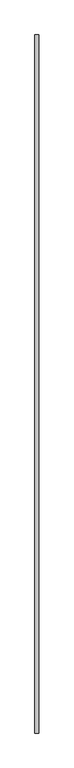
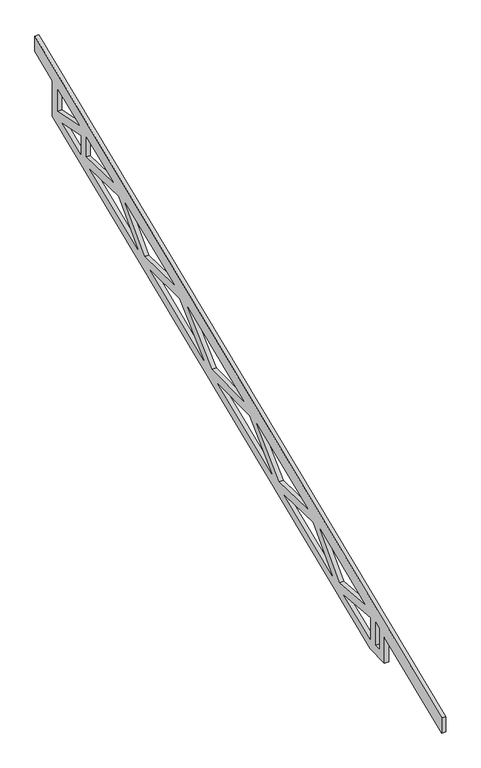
"""IFC4 building model written with IfcOpenShell, lengths in millimetres: beam geometry, Structural Framing Roof w/ Heel15 : Structural Framing Roof w/ Heel."""

import ifcopenshell
import ifcopenshell.guid

model = None  # the IFC model being written
_history = None  # IfcOwnerHistory: only IFC2X3 demands one
_inside = {}  # id of a spatial element -> (the spatial element, [elements in it])
_under = {}  # id of a project, library or spatial element -> (it, [spatial elements below it])
_declared = {}  # id of a project -> (the project, [libraries it declares])
_typed = {}  # id of a type object -> (the type object, [elements of that type])
_made_of = {}  # id of a material, layer set ... -> (it, [elements and type objects made of it])


def new_model(schema):
    """Start an empty IFC model of exactly this schema.

    Asked for "IFC4X3", IfcOpenShell would pick the latest addendum, in which some entities
    have other attributes; the version numbers below select the first issue.
    IFC2X3 requires an IfcOwnerHistory on every rooted entity: one is made here for all.
    """
    global model, _history
    if schema == "IFC4X3":
        model = ifcopenshell.file(schema_version=(4, 3, 0, 0))
    else:
        model = ifcopenshell.file(schema=schema)
    _inside.clear()
    _under.clear()
    _declared.clear()
    _typed.clear()
    _made_of.clear()
    _history = None
    if model.schema == "IFC2X3":
        org = make("IfcOrganization", Name="unknown")
        user = make(
            "IfcPersonAndOrganization",
            ThePerson=make("IfcPerson", FamilyName="unknown"),
            TheOrganization=org,
        )
        app = make(
            "IfcApplication",
            ApplicationDeveloper=org,
            Version="unknown",
            ApplicationFullName="unknown",
            ApplicationIdentifier="unknown",
        )
        _history = make(
            "IfcOwnerHistory",
            OwningUser=user,
            OwningApplication=app,
            ChangeAction="ADDED",
            CreationDate=0,
        )
    return model


def make(cls, **values):
    """One entity of the class cls with the attributes given. An attribute that is None is left unset."""
    return model.create_entity(
        cls, **{name: value for name, value in values.items() if value is not None}
    )


def rooted(cls, **values):
    """An entity with a GlobalId (a new one), such as an element, a storey or a relation."""
    return make(cls, GlobalId=ifcopenshell.guid.new(), OwnerHistory=_history, **values)


def si_unit(unit_type, name, prefix=None):
    """IfcSIUnit, for example si_unit("LENGTHUNIT", "METRE", prefix="MILLI")."""
    return make("IfcSIUnit", UnitType=unit_type, Prefix=prefix, Name=name)


def assignment(units):
    """IfcUnitAssignment: the units of a project."""
    return None if units is None else make("IfcUnitAssignment", Units=units)


def point(xyz):
    """IfcCartesianPoint."""
    return None if xyz is None else make("IfcCartesianPoint", Coordinates=xyz)


def direction(xyz):
    """IfcDirection."""
    return None if xyz is None else make("IfcDirection", DirectionRatios=xyz)


def frame(location, z_axis=None, x_axis=None):
    """IfcAxis2Placement3D, a coordinate frame: its origin and axes. An axis left out is left unset."""
    return make(
        "IfcAxis2Placement3D",
        Location=point(location),
        Axis=direction(z_axis),
        RefDirection=direction(x_axis),
    )


def origin():
    """The frame at (0, 0, 0) with its axes left unset."""
    return frame((0.0, 0.0, 0.0))


def place(relative_to, where):
    """IfcLocalPlacement: puts the frame where relative to a parent placement (None: the world)."""
    return make(
        "IfcLocalPlacement", PlacementRelTo=relative_to, RelativePlacement=where
    )


def context(
    kind, dimensions, precision=None, world=None, true_north=None, identifier=None
):
    """IfcGeometricRepresentationContext, for example the 3D "Model" context."""
    return make(
        "IfcGeometricRepresentationContext",
        ContextIdentifier=identifier,
        ContextType=kind,
        CoordinateSpaceDimension=dimensions,
        Precision=precision,
        WorldCoordinateSystem=world,
        TrueNorth=true_north,
    )


def project(units=None, contexts=None):
    """IfcProject with its units and contexts."""
    return rooted(
        "IfcProject",
        Name="project",
        RepresentationContexts=contexts,
        UnitsInContext=assignment(units),
    )


def spatial(cls, under=None, at=None, **own):
    """A site, building, storey or space (cls), placed at a placement, below another one or the project."""
    s = rooted(cls, ObjectPlacement=at, **own)
    if under is not None:
        _under.setdefault(under.id(), (under, []))[1].append(s)
    return s


def polyline(points):
    """IfcPolyline through the points."""
    return make("IfcPolyline", Points=[point(p) for p in points])


def outline(outer, holes=None, kind="AREA"):
    """IfcArbitraryClosedProfileDef: a profile drawn as a closed curve; with holes, ...WithVoids."""
    if holes is None:
        return make("IfcArbitraryClosedProfileDef", ProfileType=kind, OuterCurve=outer)
    return make(
        "IfcArbitraryProfileDefWithVoids",
        ProfileType=kind,
        OuterCurve=outer,
        InnerCurves=holes,
    )


def extrude(swept, where, along, depth):
    """IfcExtrudedAreaSolid: the profile swept, set in the frame where, extruded along a direction by depth."""
    return make(
        "IfcExtrudedAreaSolid",
        SweptArea=swept,
        Position=where,
        ExtrudedDirection=direction(along),
        Depth=depth,
    )


def shape(context_of_items, identifier, shape_type, items):
    """IfcShapeRepresentation: the items that make up one representation, for example the "Body"."""
    return make(
        "IfcShapeRepresentation",
        ContextOfItems=context_of_items,
        RepresentationIdentifier=identifier,
        RepresentationType=shape_type,
        Items=items,
    )


def source(mapping_origin, context_of_items, identifier, shape_type, items):
    """IfcRepresentationMap: a shape defined once, which mapped items show again and again."""
    return make(
        "IfcRepresentationMap",
        MappingOrigin=mapping_origin,
        MappedRepresentation=shape(context_of_items, identifier, shape_type, items),
    )


def transform(
    local_origin,
    x_axis=None,
    y_axis=None,
    z_axis=None,
    scale=None,
    scale2=None,
    scale3=None,
    uniform=True,
):
    """IfcCartesianTransformationOperator3D, or its non-uniform kind. x_axis, y_axis, z_axis: its Axis1, 2, 3."""
    if uniform:
        return make(
            "IfcCartesianTransformationOperator3D",
            Axis1=direction(x_axis),
            Axis2=direction(y_axis),
            LocalOrigin=point(local_origin),
            Scale=scale,
            Axis3=direction(z_axis),
        )
    return make(
        "IfcCartesianTransformationOperator3DnonUniform",
        Axis1=direction(x_axis),
        Axis2=direction(y_axis),
        LocalOrigin=point(local_origin),
        Scale=scale,
        Axis3=direction(z_axis),
        Scale2=scale2,
        Scale3=scale3,
    )


def mapped(mapping_source, mapping_target):
    """IfcMappedItem: shows the shape of a source again, moved by a transform."""
    return make(
        "IfcMappedItem", MappingSource=mapping_source, MappingTarget=mapping_target
    )


def made_of(thing, what):
    """Note that an element or type object is made of a material, layer set ...; save() writes the relation."""
    if what is not None:
        _made_of.setdefault(what.id(), (what, []))[1].append(thing)
    return thing


def element(
    cls,
    number,
    at=None,
    inside=None,
    cuts=None,
    type_object=None,
    material=None,
    context=None,
    identifier="Body",
    shape_type=None,
    held_by="IfcProductDefinitionShape",
    body=None,
    shapes=None,
    **own,
):
    """One element of the class cls, such as IfcWall. Its Tag is "e" and its number.

    at: its placement. inside: the storey or other place that contains it. cuts: it is an
    opening in that element (IfcRelVoidsElement). A single representation is given by context,
    identifier, shape_type and body (its items); several are given by shapes. held_by: the class
    of the entity that holds the representations. save() writes the other relations.
    """
    e = rooted(cls, Tag="e%d" % number, ObjectPlacement=at, **own)
    if body is not None:
        shapes = [shape(context, identifier, shape_type, body)]
    if shapes is not None:
        e.Representation = make(held_by, Representations=shapes)
    if inside is not None:
        _inside.setdefault(inside.id(), (inside, []))[1].append(e)
    if cuts is not None:
        rooted(
            "IfcRelVoidsElement", RelatingBuildingElement=cuts, RelatedOpeningElement=e
        )
    if type_object is not None:
        _typed.setdefault(type_object.id(), (type_object, []))[1].append(e)
    return made_of(e, material)


def aggregate(whole, parts):
    """IfcRelAggregates: a whole, such as a stair, and the parts it consists of."""
    return rooted("IfcRelAggregates", RelatingObject=whole, RelatedObjects=parts)


def save(model, path):
    """Write the relations noted so far, then the file.

    IfcRelAggregates (storeys below a building ...), IfcRelContainedInSpatialStructure (elements
    in a storey), IfcRelDefinesByType, IfcRelAssociatesMaterial and IfcRelDeclares: one each for
    every whole, place, type object, material and project.
    """
    for whole, parts in _under.values():
        aggregate(whole, parts)
    for where, things in _inside.values():
        rooted(
            "IfcRelContainedInSpatialStructure",
            RelatedElements=things,
            RelatingStructure=where,
        )
    for kind, things in _typed.values():
        rooted("IfcRelDefinesByType", RelatedObjects=things, RelatingType=kind)
    for what, things in _made_of.values():
        rooted("IfcRelAssociatesMaterial", RelatedObjects=things, RelatingMaterial=what)
    for by, libraries in _declared.values():
        rooted("IfcRelDeclares", RelatingContext=by, RelatedDefinitions=libraries)
    model.write(path)


def beam_7082162d(model_context):
    return source(origin(), model_context, "Body", "SweptSolid", [
        extrude(outline(polyline([(-4341.3150713, 5708.65), (-4576.2650713, 5708.65), (-4576.2650713, 5966.3541667), (-5512.8900713, 5576.09375), (-5512.8900713, 5727.4354167), (1151.4349287, 8504.2375), (1151.4349287, 8352.8958333), (865.6849287, 8233.8333333), (865.6849287, 7878.2333333), (-4341.3150713, 5708.65)]), holes=[polyline([(776.7849287, 7982.8105493), (776.7849287, 8196.7916667), (428.5029469, 8051.6741742), (776.7849287, 7982.8105493)]), polyline([(399.2041595, 7780.1746795), (703.0361414, 7906.7713386), (399.2041595, 7966.8461421), (399.2041595, 7780.1746795)]), polyline([(-4487.3650713, 6003.3958333), (-4487.3650713, 5797.55), (-4430.2150713, 5797.55), (-4430.2150713, 6027.2083333), (-4487.3650713, 6003.3958333)]), polyline([(-4341.3150713, 6019.6478887), (-4341.3150713, 5804.9583333), (-3911.4775967, 5984.0572811), (-4341.3150713, 6019.6478887)]), polyline([(-4252.0156228, 6101.4581035), (-3839.8684995, 6067.3322597), (-3521.3586349, 6405.8985152), (-4252.0156228, 6101.4581035)]), polyline([(-3721.805413, 6063.0873576), (-2936.0539604, 6390.4837962), (-3402.2530812, 6402.7617238), (-3721.805413, 6063.0873576)]), polyline([(-3320.6131644, 6489.5424612), (-2853.3624523, 6477.2368386), (-2486.998348, 6836.881968), (-3320.6131644, 6489.5424612)]), polyline([(-2358.3334599, 6838.6111327), (-2725.4356999, 6478.2414047), (-1843.9575196, 6845.5239799), (-2358.3334599, 6838.6111327)]), polyline([(-1751.4938827, 6935.6746534), (-1350.110684, 7310.5851614), (-2266.5072975, 6928.7532391), (-1751.4938827, 6935.6746534)]), polyline([(-1215.2990068, 7314.8572237), (-1616.1500785, 6940.443747), (-734.7495208, 7307.6939794), (-1215.2990068, 7314.8572237)]), polyline([(-650.6839438, 7395.3507437), (-330.9232503, 7735.2465921), (-1129.5420109, 7402.4887751), (-650.6839438, 7395.3507437)]), polyline([(-211.8176966, 7732.1098007), (-531.3700284, 7392.4354346), (254.3814243, 7719.8318731), (-211.8176966, 7732.1098007)]), polyline([(-130.1777798, 7818.8905381), (310.3041595, 7807.2899041), (310.3041595, 8002.4246795), (-130.1777798, 7818.8905381)])]), frame((-10237.1178637, 0.0, 0.0), z_axis=(1.0, 0.0, 0.0), x_axis=(0.0, 1.0, 0.0)), (0.0, 0.0, 1.0), 38.1),
    ])


if __name__ == "__main__":
    model = new_model("IFC4")
    model_context = context("Model", 3, world=origin())
    ifc_project = project(units=[si_unit("LENGTHUNIT", "METRE", prefix="MILLI")], contexts=[model_context])
    site = spatial("IfcSite", under=ifc_project)
    building = spatial("IfcBuilding", under=site)
    placement = place(None, origin())
    beam_shape = beam_7082162d(model_context)
    element("IfcBeam", 1, ObjectType="Structural Framing Roof w/ Heel15 : Structural Framing Roof w/ Heel", at=placement, inside=building, context=model_context, shape_type="MappedRepresentation", body=[
        mapped(beam_shape, transform((0.0, 0.0, 0.0), x_axis=(1.0, 0.0, 0.0), y_axis=(0.0, 1.0, 0.0), z_axis=(0.0, 0.0, 1.0))),
    ])
    save(model, "model.ifc")
